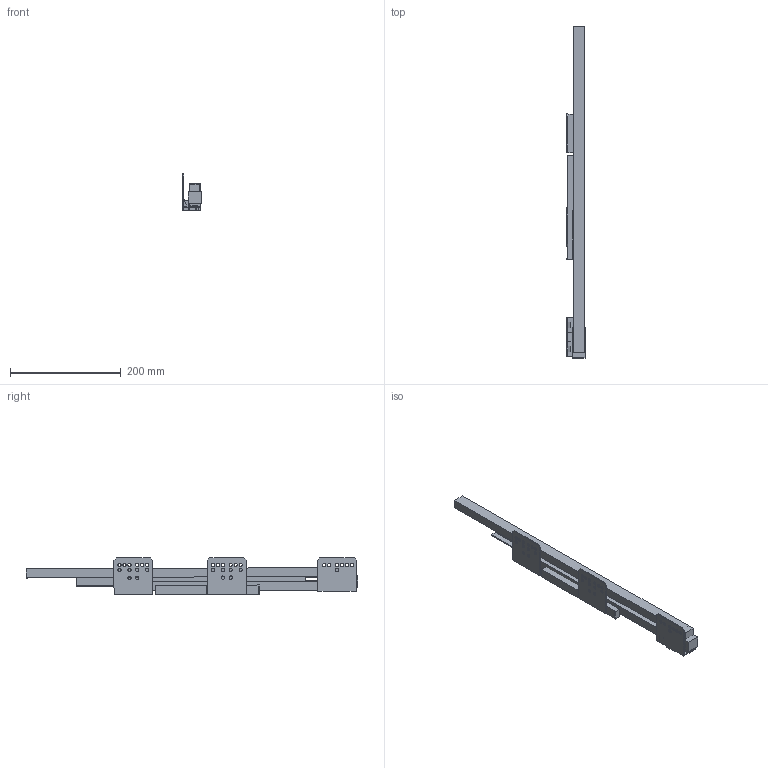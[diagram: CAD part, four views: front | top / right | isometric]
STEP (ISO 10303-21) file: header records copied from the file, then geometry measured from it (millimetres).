
FILE_DESCRIPTION (( 'STEP AP214' ), '1' );
FILE_NAME ('_IMOS Dynamic-XP VA 40kg NL600 LI.step', '2010-07-07T08:06:22', ( 'grass' ), ( '' ), 'SwSTEP 2.0', 'SolidWorks 2010', '' );
FILE_SCHEMA (( 'AUTOMOTIVE_DESIGN' ));
Length unit declared in the file: millimetre
Products named in the file (1): _IMOS Dynamic-XP VA 40kg NL600 LI
Bounding box: 32.79 x 599.89 x 66.67 mm (x, y, z)
Volume: 489178.7 mm3; surface area: 179581.5 mm2
Topology: 8 solids, 8 shells, 205 faces, 567 edges, 378 vertices
Faces by surface type: plane 141, cylinder 64
Entity records: 6754 total; most frequent: CARTESIAN_POINT 1151, ORIENTED_EDGE 1134, DIRECTION 1107, EDGE_CURVE 567, VECTOR 439, LINE 439, VERTEX_POINT 378, AXIS2_PLACEMENT_3D 334
